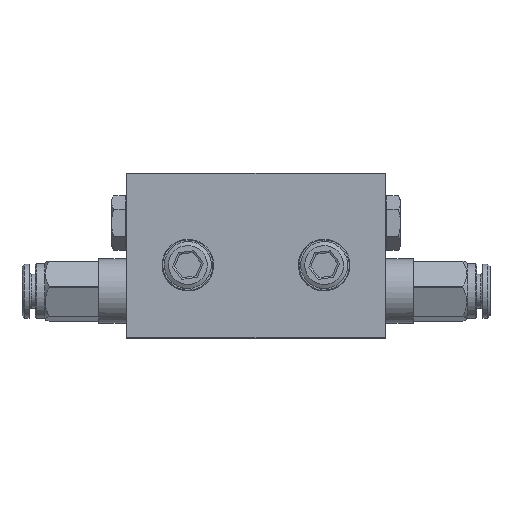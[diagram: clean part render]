
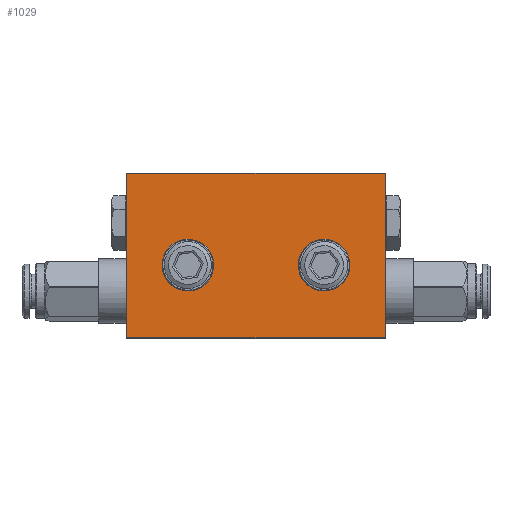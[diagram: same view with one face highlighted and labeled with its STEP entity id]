
A CAD part, top view. The second image highlights one B-rep face of the part: STEP entity #1029.
In plain terms, the highlighted planar face has unit normal (0, 0, 1) as drawn and (0, 0, -1) by its records, which use the part's own axes.
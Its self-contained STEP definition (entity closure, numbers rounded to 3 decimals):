
#305 = ORIENTED_EDGE ( 'NONE', *, *, #771, .F. ) ;
#771 = EDGE_CURVE ( 'NONE', #11831, #42963, #10336, .T. ) ;
#814 = EDGE_CURVE ( 'NONE', #22250, #22250, #45457, .T. ) ;
#1029 = ADVANCED_FACE ( 'NONE', ( #12713, #27639, #42576 ), #33517, .F. ) ;
#1043 = DIRECTION ( 'NONE',  ( 0., 1., 0. ) ) ;
#1251 = ORIENTED_EDGE ( 'NONE', *, *, #3665, .F. ) ;
#2907 = DIRECTION ( 'NONE',  ( 1., 0., 0. ) ) ;
#3317 = DIRECTION ( 'NONE',  ( 0., -1., 0. ) ) ;
#3665 = EDGE_CURVE ( 'NONE', #11029, #11029, #42969, .T. ) ;
#4509 = DIRECTION ( 'NONE',  ( 0., 0., -1. ) ) ;
#7181 = CARTESIAN_POINT ( 'NONE',  ( 27.5, 0., -4.85 ) ) ;
#7570 = DIRECTION ( 'NONE',  ( -1., 0., 0. ) ) ;
#7866 = EDGE_CURVE ( 'NONE', #31382, #11831, #38541, .T. ) ;
#9525 = AXIS2_PLACEMENT_3D ( 'NONE', #20044, #4509, #41839 ) ;
#10336 = LINE ( 'NONE', #25226, #39195 ) ;
#11029 = VERTEX_POINT ( 'NONE', #33527 ) ;
#11831 = VERTEX_POINT ( 'NONE', #17648 ) ;
#12713 = FACE_BOUND ( 'NONE', #19105, .T. ) ;
#13712 = EDGE_CURVE ( 'NONE', #42963, #30444, #35854, .T. ) ;
#14425 = DIRECTION ( 'NONE',  ( 1., 0., 0. ) ) ;
#14916 = CARTESIAN_POINT ( 'NONE',  ( -27.5, -35., -4.85 ) ) ;
#17648 = CARTESIAN_POINT ( 'NONE',  ( -27.5, 0., -4.85 ) ) ;
#18673 = ORIENTED_EDGE ( 'NONE', *, *, #33073, .F. ) ;
#19105 = EDGE_LOOP ( 'NONE', ( #19558 ) ) ;
#19558 = ORIENTED_EDGE ( 'NONE', *, *, #814, .F. ) ;
#19677 = DIRECTION ( 'NONE',  ( -1., 0., 0. ) ) ;
#19923 = ORIENTED_EDGE ( 'NONE', *, *, #7866, .F. ) ;
#20044 = CARTESIAN_POINT ( 'NONE',  ( -14.5, -15.5, -4.85 ) ) ;
#20751 = CARTESIAN_POINT ( 'NONE',  ( 14.5, -15.5, -4.85 ) ) ;
#22250 = VERTEX_POINT ( 'NONE', #22954 ) ;
#22954 = CARTESIAN_POINT ( 'NONE',  ( -11.4, -15.5, -4.85 ) ) ;
#25226 = CARTESIAN_POINT ( 'NONE',  ( -27.5, 0., -4.85 ) ) ;
#25874 = DIRECTION ( 'NONE',  ( 0., 0., -1. ) ) ;
#26376 = LINE ( 'NONE', #30535, #31437 ) ;
#27639 = FACE_BOUND ( 'NONE', #44699, .T. ) ;
#30015 = VECTOR ( 'NONE', #2907, 1000. ) ;
#30444 = VERTEX_POINT ( 'NONE', #36599 ) ;
#30535 = CARTESIAN_POINT ( 'NONE',  ( 27.5, 0., -4.85 ) ) ;
#31382 = VERTEX_POINT ( 'NONE', #7181 ) ;
#31437 = VECTOR ( 'NONE', #1043, 1000. ) ;
#31571 = VECTOR ( 'NONE', #19677, 1000. ) ;
#33073 = EDGE_CURVE ( 'NONE', #30444, #31382, #26376, .T. ) ;
#33517 = PLANE ( 'NONE',  #40004 ) ;
#33527 = CARTESIAN_POINT ( 'NONE',  ( 11.4, -15.5, -4.85 ) ) ;
#33664 = EDGE_LOOP ( 'NONE', ( #41975, #305, #19923, #18673 ) ) ;
#35854 = LINE ( 'NONE', #48108, #30015 ) ;
#36461 = DIRECTION ( 'NONE',  ( 0., 0., 1. ) ) ;
#36599 = CARTESIAN_POINT ( 'NONE',  ( 27.5, -35., -4.85 ) ) ;
#38541 = LINE ( 'NONE', #38782, #31571 ) ;
#38782 = CARTESIAN_POINT ( 'NONE',  ( 0., 0., -4.85 ) ) ;
#39195 = VECTOR ( 'NONE', #3317, 1000. ) ;
#40004 = AXIS2_PLACEMENT_3D ( 'NONE', #47981, #36461, #14425 ) ;
#40627 = AXIS2_PLACEMENT_3D ( 'NONE', #20751, #25874, #7570 ) ;
#41839 = DIRECTION ( 'NONE',  ( 1., 0., 0. ) ) ;
#41975 = ORIENTED_EDGE ( 'NONE', *, *, #13712, .F. ) ;
#42576 = FACE_OUTER_BOUND ( 'NONE', #33664, .T. ) ;
#42963 = VERTEX_POINT ( 'NONE', #14916 ) ;
#42969 = CIRCLE ( 'NONE', #40627, 3.1 ) ;
#44699 = EDGE_LOOP ( 'NONE', ( #1251 ) ) ;
#45457 = CIRCLE ( 'NONE', #9525, 3.1 ) ;
#47981 = CARTESIAN_POINT ( 'NONE',  ( 0., 0., -4.85 ) ) ;
#48108 = CARTESIAN_POINT ( 'NONE',  ( 0., -35., -4.85 ) ) ;
